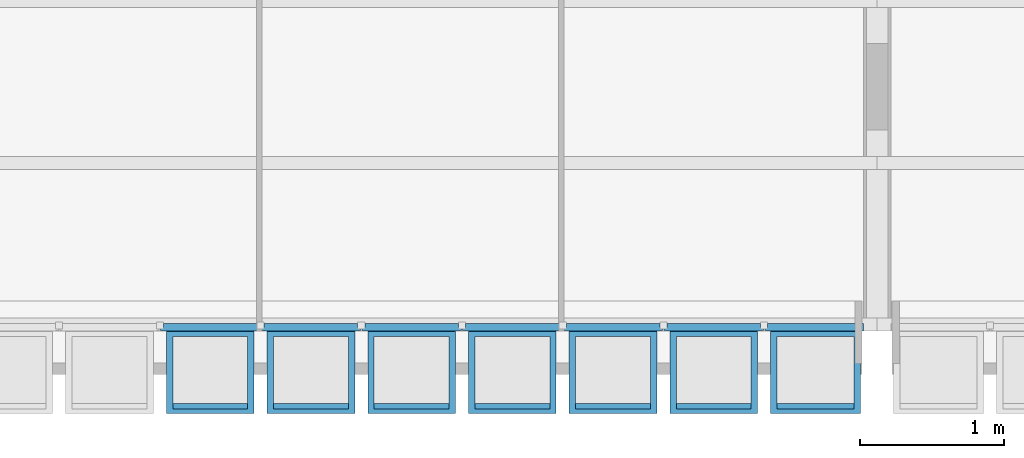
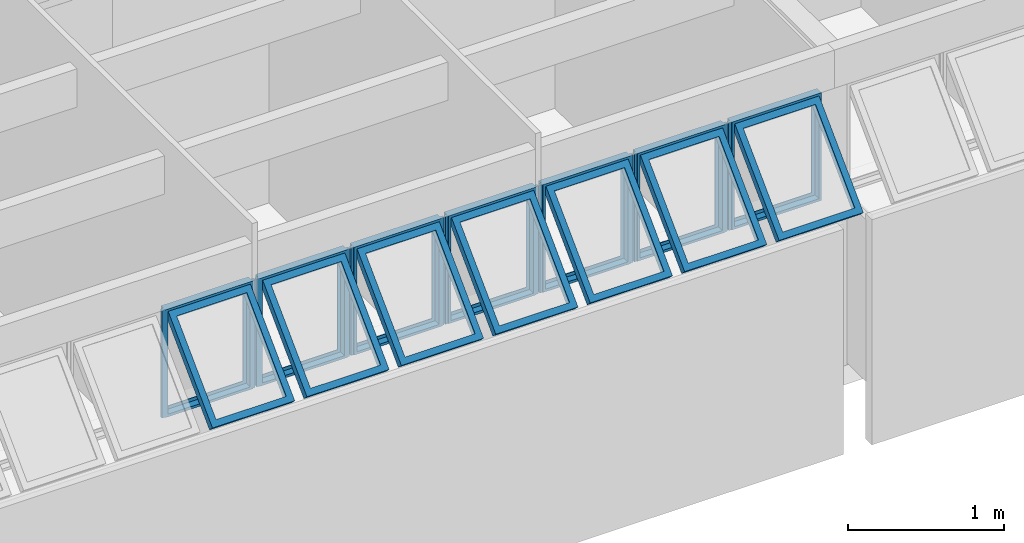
# One storey, part 27 of 38: 7 building element parts, 8 elements without a shape of their own.
"""IFC2X3 building model written with IfcOpenShell, lengths in millimetres."""

from ifc_helpers import new_model, entity, si_unit, converted_unit, derived_unit, money_unit, direction, frame, origin_with_axes, place, context, subcontext, project, spatial, faceted_brep, source, transform, mapped, material, type_object, element, aggregate, save


model = new_model("IFC2X3")

# Units and contexts
model_context = context("Model", 3, precision=0.01, world=origin_with_axes(), true_north=direction((0.0, 1.0)))
body_context = subcontext(model_context, "Body", "Model", "MODEL_VIEW")
ifc_project = project(units=[si_unit("LENGTHUNIT", "METRE", prefix="MILLI"), si_unit("AREAUNIT", "SQUARE_METRE"), si_unit("VOLUMEUNIT", "CUBIC_METRE"), converted_unit("PLANEANGLEUNIT", "DEGREE", entity("IfcPlaneAngleMeasure", 0.0174532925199), si_unit("PLANEANGLEUNIT", "RADIAN"), dimensions=[0, 0, 0, 0, 0, 0, 0]), money_unit("USD"), converted_unit("TIMEUNIT", "Year", entity("IfcTimeMeasure", 31556926.0), si_unit("TIMEUNIT", "SECOND"), dimensions=[0, 0, 1, 0, 0, 0, 0]), si_unit("MASSUNIT", "GRAM", prefix="KILO"), si_unit("THERMODYNAMICTEMPERATUREUNIT", "DEGREE_CELSIUS"), si_unit("LUMINOUSINTENSITYUNIT", "LUMEN"), si_unit("ENERGYUNIT", "JOULE", prefix="MEGA"), derived_unit("THERMALCONDUCTANCEUNIT", [(si_unit("POWERUNIT", "WATT"), 1), (si_unit("LENGTHUNIT", "METRE"), -1), (si_unit("THERMODYNAMICTEMPERATUREUNIT", "KELVIN"), -1)]), derived_unit("SPECIFICHEATCAPACITYUNIT", [(si_unit("ENERGYUNIT", "JOULE"), 1), (si_unit("MASSUNIT", "GRAM", prefix="KILO"), -1), (si_unit("THERMODYNAMICTEMPERATUREUNIT", "KELVIN"), -1)]), derived_unit("MASSDENSITYUNIT", [(si_unit("MASSUNIT", "GRAM", prefix="KILO"), 1), (si_unit("VOLUMEUNIT", "CUBIC_METRE"), -1)])], contexts=[model_context])

# Site, building, storey
site_placement = place(None, origin_with_axes())
site = spatial("IfcSite", under=ifc_project, at=site_placement, Name="Local", CompositionType="ELEMENT")
building_placement = place(site_placement, origin_with_axes())
building = spatial("IfcBuilding", under=site, at=building_placement, Name="Construção", CompositionType="ELEMENT")
storey_placement = place(building_placement, frame((0.0, 0.0, 2650.0), z_axis=(0.0, 0.0, 1.0), x_axis=(1.0, 0.0, 0.0)))
storey = spatial("IfcBuildingStorey", under=building, at=storey_placement, Name="Segundo Pavimento", CompositionType="ELEMENT", Elevation=2650.0)

# Window, plates, building element parts
window_style = type_object("IfcWindowStyle", Name="Tipo de Parede Cortina", ConstructionType="NOTDEFINED", OperationType="NOTDEFINED", ParameterTakesPrecedence=False, Sizeable=False)
window_placement = place(storey_placement, frame((6250.0, 315.020977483, 1355.02054151), z_axis=(0.0, 0.0, 1.0), x_axis=(1.0, 0.0, 0.0)))
window = element("IfcWindow", 1, at=window_placement, inside=storey, type_object=window_style, Name="APTO5-JANELA-001")
plate_type_1 = type_object("IfcPlateType", Name="Painel Principal 690 x 845 x 20", PredefinedType="CURTAIN_PANEL")
plate_1_placement = place(window_placement, frame((0.0, 0.0, 422.499945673), z_axis=(0.0, 0.0, 1.0), x_axis=(-1.0, 0.0, 0.0)))
plate_1 = element("IfcPlate", 2, at=plate_1_placement, type_object=plate_type_1, Name="APTO5-Painel-Prin-030")
ifc_material = material(Name="Alumínio")
shared_shape_1 = source(origin_with_axes(), body_context, "Body", "Brep", [
    faceted_brep([(25.0000036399, 0.0, -40.0), (674.999997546, 0.0, -40.0), (674.999997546, 0.0, -35.0), (25.0000036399, 0.0, -35.0), (70.0000036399, 45.0, -40.0), (629.999997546, 45.0, -40.0), (629.999997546, 45.0, -35.0), (70.0000036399, 45.0, -35.0)], [[[0, 1, 2, 3]], [[0, 4, 5, 1]], [[1, 5, 6, 2]], [[3, 2, 6, 7]], [[4, 0, 3, 7]], [[5, 4, 7, 6]]]),
    faceted_brep([(674.999997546, 0.0, -40.0), (674.999997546, 844.999891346, -40.0), (674.999997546, 844.999891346, -35.0), (674.999997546, 0.0, -35.0), (629.999997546, 45.0, -40.0), (629.999997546, 799.999891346, -40.0), (629.999997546, 799.999891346, -35.0), (629.999997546, 45.0, -35.0)], [[[0, 1, 2, 3]], [[0, 4, 5, 1]], [[1, 5, 6, 2]], [[3, 2, 6, 7]], [[4, 0, 3, 7]], [[5, 4, 7, 6]]]),
    faceted_brep([(25.0000036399, 844.999891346, -40.0), (70.0000036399, 799.999891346, -40.0), (70.0000036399, 799.999891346, -35.0), (25.0000036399, 844.999891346, -35.0), (674.999997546, 844.999891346, -40.0), (629.999997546, 799.999891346, -40.0), (629.999997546, 799.999891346, -35.0), (674.999997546, 844.999891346, -35.0)], [[[0, 1, 2, 3]], [[0, 4, 5, 1]], [[1, 5, 6, 2]], [[3, 2, 6, 7]], [[4, 0, 3, 7]], [[5, 4, 7, 6]]]),
    faceted_brep([(25.0000036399, 0.0, -40.0), (70.0000036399, 45.0, -40.0), (70.0000036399, 45.0, -35.0), (25.0000036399, 0.0, -35.0), (25.0000036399, 844.999891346, -40.0), (70.0000036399, 799.999891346, -40.0), (70.0000036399, 799.999891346, -35.0), (25.0000036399, 844.999891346, -35.0)], [[[0, 1, 2, 3]], [[0, 4, 5, 1]], [[1, 5, 6, 2]], [[3, 2, 6, 7]], [[4, 0, 3, 7]], [[5, 4, 7, 6]]]),
    faceted_brep([(25.0000036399, 0.0, -35.0), (674.999997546, 0.0, -35.0), (674.999997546, 0.0, 15.0), (25.0000036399, 0.0, 15.0), (45.0000036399, 20.0, -35.0), (654.999997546, 20.0, -35.0), (654.999997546, 20.0, 15.0), (45.0000036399, 20.0, 15.0)], [[[0, 1, 2, 3]], [[0, 4, 5, 1]], [[1, 5, 6, 2]], [[3, 2, 6, 7]], [[4, 0, 3, 7]], [[5, 4, 7, 6]]]),
    faceted_brep([(674.999997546, 0.0, -35.0), (674.999997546, 844.999891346, -35.0), (674.999997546, 844.999891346, 15.0), (674.999997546, 0.0, 15.0), (654.999997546, 20.0, -35.0), (654.999997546, 824.999891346, -35.0), (654.999997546, 824.999891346, 15.0), (654.999997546, 20.0, 15.0)], [[[0, 1, 2, 3]], [[0, 4, 5, 1]], [[1, 5, 6, 2]], [[3, 2, 6, 7]], [[4, 0, 3, 7]], [[5, 4, 7, 6]]]),
    faceted_brep([(25.0000036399, 844.999891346, -35.0), (45.0000036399, 824.999891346, -35.0), (45.0000036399, 824.999891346, 15.0), (25.0000036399, 844.999891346, 15.0), (674.999997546, 844.999891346, -35.0), (654.999997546, 824.999891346, -35.0), (654.999997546, 824.999891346, 15.0), (674.999997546, 844.999891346, 15.0)], [[[0, 1, 2, 3]], [[0, 4, 5, 1]], [[1, 5, 6, 2]], [[3, 2, 6, 7]], [[4, 0, 3, 7]], [[5, 4, 7, 6]]]),
    faceted_brep([(25.0000036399, 0.0, -35.0), (45.0000036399, 20.0, -35.0), (45.0000036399, 20.0, 15.0), (25.0000036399, 0.0, 15.0), (25.0000036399, 844.999891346, -35.0), (45.0000036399, 824.999891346, -35.0), (45.0000036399, 824.999891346, 15.0), (25.0000036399, 844.999891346, 15.0)], [[[0, 1, 2, 3]], [[0, 4, 5, 1]], [[1, 5, 6, 2]], [[3, 2, 6, 7]], [[4, 0, 3, 7]], [[5, 4, 7, 6]]]),
    faceted_brep([(694.999995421, 0.0, -10.0), (694.999995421, 844.999891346, -10.0), (694.999995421, 844.999891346, 10.0), (694.999995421, 0.0, 10.0), (674.999997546, 0.0, -10.0), (674.999997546, 844.999891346, -10.0), (674.999997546, 844.999891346, 10.0), (674.999997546, 0.0, 10.0)], [[[0, 1, 2, 3]], [[0, 4, 5, 1]], [[1, 5, 6, 2]], [[3, 2, 6, 7]], [[4, 0, 3, 7]], [[5, 4, 7, 6]]]),
    faceted_brep([(5.00000576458, 844.999891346, -10.0), (5.00000576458, 0.0, -10.0), (5.00000576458, 0.0, 10.0), (5.00000576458, 844.999891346, 10.0), (25.0000036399, 844.999891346, -10.0), (25.0000036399, 0.0, -10.0), (25.0000036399, 0.0, 10.0), (25.0000036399, 844.999891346, 10.0)], [[[0, 1, 2, 3]], [[0, 4, 5, 1]], [[1, 5, 6, 2]], [[3, 2, 6, 7]], [[4, 0, 3, 7]], [[5, 4, 7, 6]]]),
    faceted_brep([(90.0000036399, 252.243475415, 517.045737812), (90.0000036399, 757.824747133, 11.4644660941), (90.0000036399, 796.715620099, 50.3553390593), (90.0000036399, 291.13434838, 555.936610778), (45.0000036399, 220.423670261, 548.865542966), (45.0000036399, 789.644552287, -20.3553390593), (45.0000036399, 828.535425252, 18.5355339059), (45.0000036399, 259.314543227, 587.756415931)], [[[0, 1, 2, 3]], [[0, 4, 5, 1]], [[1, 5, 6, 2]], [[3, 2, 6, 7]], [[4, 0, 3, 7]], [[5, 4, 7, 6]]]),
    faceted_brep([(654.999997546, 220.423670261, 548.865542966), (654.999997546, 789.644552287, -20.3553390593), (654.999997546, 828.535425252, 18.5355339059), (654.999997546, 259.314543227, 587.756415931), (609.999997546, 252.243475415, 517.045737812), (609.999997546, 757.824747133, 11.4644660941), (609.999997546, 796.715620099, 50.3553390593), (609.999997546, 291.13434838, 555.936610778)], [[[0, 1, 2, 3]], [[0, 4, 5, 1]], [[1, 5, 6, 2]], [[3, 2, 6, 7]], [[4, 0, 3, 7]], [[5, 4, 7, 6]]]),
    faceted_brep([(654.999997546, 220.423670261, 548.865542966), (609.999997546, 252.243475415, 517.045737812), (609.999997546, 291.13434838, 555.936610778), (654.999997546, 259.314543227, 587.756415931), (45.0000036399, 220.423670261, 548.865542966), (90.0000036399, 252.243475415, 517.045737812), (90.0000036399, 291.13434838, 555.936610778), (45.0000036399, 259.314543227, 587.756415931)], [[[0, 1, 2, 3]], [[0, 4, 5, 1]], [[1, 5, 6, 2]], [[3, 2, 6, 7]], [[4, 0, 3, 7]], [[5, 4, 7, 6]]]),
    faceted_brep([(45.0000036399, 789.644552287, -20.3553390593), (90.0000036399, 757.824747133, 11.4644660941), (90.0000036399, 796.715620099, 50.3553390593), (45.0000036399, 828.535425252, 18.5355339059), (654.999997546, 789.644552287, -20.3553390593), (609.999997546, 757.824747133, 11.4644660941), (609.999997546, 796.715620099, 50.3553390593), (654.999997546, 828.535425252, 18.5355339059)], [[[0, 1, 2, 3]], [[0, 4, 5, 1]], [[1, 5, 6, 2]], [[3, 2, 6, 7]], [[4, 0, 3, 7]], [[5, 4, 7, 6]]]),
])
building_element_part_1_placement = place(plate_1_placement, origin_with_axes())
building_element_part_1 = element("IfcBuildingElementPart", 3, at=building_element_part_1_placement, material=ifc_material, Name="Alumínio", context=body_context, shape_type="MappedRepresentation", body=[
    mapped(shared_shape_1, transform((350.0, 0.0, -422.499945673), x_axis=(-1.0, 0.0, 0.0), y_axis=(0.0, 0.0, 1.0), z_axis=(0.0, 1.0, 0.0))),
])
aggregate(plate_1, [building_element_part_1])
plate_2_placement = place(window_placement, frame((-700.0, 0.0, 422.499945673), z_axis=(0.0, 0.0, 1.0), x_axis=(-1.0, 0.0, 0.0)))
plate_2 = element("IfcPlate", 4, at=plate_2_placement, type_object=plate_type_1, Name="APTO5-Painel-Prin-020")
building_element_part_2_placement = place(plate_2_placement, origin_with_axes())
building_element_part_2 = element("IfcBuildingElementPart", 5, at=building_element_part_2_placement, material=ifc_material, Name="Alumínio", context=body_context, shape_type="MappedRepresentation", body=[
    mapped(shared_shape_1, transform((350.0, 0.0, -422.499945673), x_axis=(-1.0, 0.0, 0.0), y_axis=(0.0, 0.0, 1.0), z_axis=(0.0, 1.0, 0.0))),
])
aggregate(plate_2, [building_element_part_2])
plate_3_placement = place(window_placement, frame((-1400.0, 0.0, 422.499945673), z_axis=(0.0, 0.0, 1.0), x_axis=(-1.0, 0.0, 0.0)))
plate_3 = element("IfcPlate", 6, at=plate_3_placement, type_object=plate_type_1, Name="APTO5-Painel-Prin-029")
building_element_part_3_placement = place(plate_3_placement, origin_with_axes())
building_element_part_3 = element("IfcBuildingElementPart", 7, at=building_element_part_3_placement, material=ifc_material, Name="Alumínio", context=body_context, shape_type="MappedRepresentation", body=[
    mapped(shared_shape_1, transform((350.0, 0.0, -422.499945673), x_axis=(-1.0, 0.0, 0.0), y_axis=(0.0, 0.0, 1.0), z_axis=(0.0, 1.0, 0.0))),
])
aggregate(plate_3, [building_element_part_3])
plate_4_placement = place(window_placement, frame((-3500.0, 0.0, 422.499945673), z_axis=(0.0, 0.0, 1.0), x_axis=(-1.0, 0.0, 0.0)))
plate_4 = element("IfcPlate", 8, at=plate_4_placement, type_object=plate_type_1, Name="APTO5-Painel-Prin-013")
building_element_part_4_placement = place(plate_4_placement, origin_with_axes())
building_element_part_4 = element("IfcBuildingElementPart", 9, at=building_element_part_4_placement, material=ifc_material, Name="Alumínio", context=body_context, shape_type="MappedRepresentation", body=[
    mapped(shared_shape_1, transform((350.0, 0.0, -422.499945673), x_axis=(-1.0, 0.0, 0.0), y_axis=(0.0, 0.0, 1.0), z_axis=(0.0, 1.0, 0.0))),
])
aggregate(plate_4, [building_element_part_4])
plate_type_2 = type_object("IfcPlateType", Name="Painel Principal 685 x 845 x 20", PredefinedType="CURTAIN_PANEL")
plate_5_placement = place(window_placement, frame((695.000037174, 0.0, 422.499953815), z_axis=(0.0, 0.0, 1.0), x_axis=(-1.0, 0.0, 0.0)))
plate_5 = element("IfcPlate", 10, at=plate_5_placement, type_object=plate_type_2, Name="APTO5-Painel-Prin-031")
shared_shape_2 = source(origin_with_axes(), body_context, "Body", "Brep", [
    faceted_brep([(25.0000046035, 0.0, -40.0), (690.000079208, 0.0, -40.0), (690.000079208, 0.0, -35.0), (25.0000046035, 0.0, -35.0), (70.0000046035, 45.0, -40.0), (645.000079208, 45.0, -40.0), (645.000079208, 45.0, -35.0), (70.0000046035, 45.0, -35.0)], [[[0, 1, 2, 3]], [[0, 4, 5, 1]], [[1, 5, 6, 2]], [[3, 2, 6, 7]], [[4, 0, 3, 7]], [[5, 4, 7, 6]]]),
    faceted_brep([(690.000079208, 0.0, -40.0), (690.000079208, 844.999923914, -40.0), (690.000079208, 844.999923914, -35.0), (690.000079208, 0.0, -35.0), (645.000079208, 45.0, -40.0), (645.000079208, 799.999923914, -40.0), (645.000079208, 799.999923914, -35.0), (645.000079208, 45.0, -35.0)], [[[0, 1, 2, 3]], [[0, 4, 5, 1]], [[1, 5, 6, 2]], [[3, 2, 6, 7]], [[4, 0, 3, 7]], [[5, 4, 7, 6]]]),
    faceted_brep([(25.0000046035, 844.999923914, -40.0), (70.0000046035, 799.999923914, -40.0), (70.0000046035, 799.999923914, -35.0), (25.0000046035, 844.999923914, -35.0), (690.000079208, 844.999923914, -40.0), (645.000079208, 799.999923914, -40.0), (645.000079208, 799.999923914, -35.0), (690.000079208, 844.999923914, -35.0)], [[[0, 1, 2, 3]], [[0, 4, 5, 1]], [[1, 5, 6, 2]], [[3, 2, 6, 7]], [[4, 0, 3, 7]], [[5, 4, 7, 6]]]),
    faceted_brep([(25.0000046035, 0.0, -40.0), (70.0000046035, 45.0, -40.0), (70.0000046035, 45.0, -35.0), (25.0000046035, 0.0, -35.0), (25.0000046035, 844.999923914, -40.0), (70.0000046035, 799.999923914, -40.0), (70.0000046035, 799.999923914, -35.0), (25.0000046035, 844.999923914, -35.0)], [[[0, 1, 2, 3]], [[0, 4, 5, 1]], [[1, 5, 6, 2]], [[3, 2, 6, 7]], [[4, 0, 3, 7]], [[5, 4, 7, 6]]]),
    faceted_brep([(25.0000046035, 0.0, -35.0), (690.000079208, 0.0, -35.0), (690.000079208, 0.0, 15.0), (25.0000046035, 0.0, 15.0), (45.0000046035, 20.0, -35.0), (670.000079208, 20.0, -35.0), (670.000079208, 20.0, 15.0), (45.0000046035, 20.0, 15.0)], [[[0, 1, 2, 3]], [[0, 4, 5, 1]], [[1, 5, 6, 2]], [[3, 2, 6, 7]], [[4, 0, 3, 7]], [[5, 4, 7, 6]]]),
    faceted_brep([(690.000079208, 0.0, -35.0), (690.000079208, 844.999923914, -35.0), (690.000079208, 844.999923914, 15.0), (690.000079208, 0.0, 15.0), (670.000079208, 20.0, -35.0), (670.000079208, 824.999923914, -35.0), (670.000079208, 824.999923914, 15.0), (670.000079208, 20.0, 15.0)], [[[0, 1, 2, 3]], [[0, 4, 5, 1]], [[1, 5, 6, 2]], [[3, 2, 6, 7]], [[4, 0, 3, 7]], [[5, 4, 7, 6]]]),
    faceted_brep([(25.0000046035, 844.999923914, -35.0), (45.0000046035, 824.999923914, -35.0), (45.0000046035, 824.999923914, 15.0), (25.0000046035, 844.999923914, 15.0), (690.000079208, 844.999923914, -35.0), (670.000079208, 824.999923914, -35.0), (670.000079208, 824.999923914, 15.0), (690.000079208, 844.999923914, 15.0)], [[[0, 1, 2, 3]], [[0, 4, 5, 1]], [[1, 5, 6, 2]], [[3, 2, 6, 7]], [[4, 0, 3, 7]], [[5, 4, 7, 6]]]),
    faceted_brep([(25.0000046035, 0.0, -35.0), (45.0000046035, 20.0, -35.0), (45.0000046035, 20.0, 15.0), (25.0000046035, 0.0, 15.0), (25.0000046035, 844.999923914, -35.0), (45.0000046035, 824.999923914, -35.0), (45.0000046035, 824.999923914, 15.0), (25.0000046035, 844.999923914, 15.0)], [[[0, 1, 2, 3]], [[0, 4, 5, 1]], [[1, 5, 6, 2]], [[3, 2, 6, 7]], [[4, 0, 3, 7]], [[5, 4, 7, 6]]]),
    faceted_brep([(5.00000595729, 844.999923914, -10.0), (5.00000595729, 0.0, -10.0), (5.00000595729, 0.0, 10.0), (5.00000595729, 844.999923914, 10.0), (25.0000046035, 844.999923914, -10.0), (25.0000046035, 0.0, -10.0), (25.0000046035, 0.0, 10.0), (25.0000046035, 844.999923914, 10.0)], [[[0, 1, 2, 3]], [[0, 4, 5, 1]], [[1, 5, 6, 2]], [[3, 2, 6, 7]], [[4, 0, 3, 7]], [[5, 4, 7, 6]]]),
    faceted_brep([(90.0000046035, 252.243484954, 517.045760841), (90.0000046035, 757.824779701, 11.4644660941), (90.0000046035, 796.715652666, 50.3553390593), (90.0000046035, 291.134357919, 555.936633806), (45.0000046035, 220.4236798, 548.865565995), (45.0000046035, 789.644584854, -20.3553390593), (45.0000046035, 828.535457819, 18.5355339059), (45.0000046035, 259.314552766, 587.75643896)], [[[0, 1, 2, 3]], [[0, 4, 5, 1]], [[1, 5, 6, 2]], [[3, 2, 6, 7]], [[4, 0, 3, 7]], [[5, 4, 7, 6]]]),
    faceted_brep([(670.000079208, 220.4236798, 548.865565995), (670.000079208, 789.644584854, -20.3553390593), (670.000079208, 828.535457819, 18.5355339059), (670.000079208, 259.314552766, 587.75643896), (625.000079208, 252.243484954, 517.045760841), (625.000079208, 757.824779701, 11.4644660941), (625.000079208, 796.715652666, 50.3553390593), (625.000079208, 291.134357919, 555.936633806)], [[[0, 1, 2, 3]], [[0, 4, 5, 1]], [[1, 5, 6, 2]], [[3, 2, 6, 7]], [[4, 0, 3, 7]], [[5, 4, 7, 6]]]),
    faceted_brep([(670.000079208, 220.4236798, 548.865565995), (625.000079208, 252.243484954, 517.045760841), (625.000079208, 291.134357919, 555.936633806), (670.000079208, 259.314552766, 587.75643896), (45.0000046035, 220.4236798, 548.865565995), (90.0000046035, 252.243484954, 517.045760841), (90.0000046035, 291.134357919, 555.936633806), (45.0000046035, 259.314552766, 587.75643896)], [[[0, 1, 2, 3]], [[0, 4, 5, 1]], [[1, 5, 6, 2]], [[3, 2, 6, 7]], [[4, 0, 3, 7]], [[5, 4, 7, 6]]]),
    faceted_brep([(45.0000046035, 789.644584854, -20.3553390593), (90.0000046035, 757.824779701, 11.4644660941), (90.0000046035, 796.715652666, 50.3553390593), (45.0000046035, 828.535457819, 18.5355339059), (670.000079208, 789.644584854, -20.3553390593), (625.000079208, 757.824779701, 11.4644660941), (625.000079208, 796.715652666, 50.3553390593), (670.000079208, 828.535457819, 18.5355339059)], [[[0, 1, 2, 3]], [[0, 4, 5, 1]], [[1, 5, 6, 2]], [[3, 2, 6, 7]], [[4, 0, 3, 7]], [[5, 4, 7, 6]]]),
])
building_element_part_5_placement = place(plate_5_placement, origin_with_axes())
building_element_part_5 = element("IfcBuildingElementPart", 11, at=building_element_part_5_placement, material=ifc_material, Name="Alumínio", context=body_context, shape_type="MappedRepresentation", body=[
    mapped(shared_shape_2, transform((345.000037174, 0.0, -422.499953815), x_axis=(-1.0, 0.0, 0.0), y_axis=(0.0, 0.0, 1.0), z_axis=(0.0, 1.0, 0.0))),
])
aggregate(plate_5, [building_element_part_5])
plate_6_placement = place(window_placement, frame((-2100.0, 0.0, 422.499945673), z_axis=(0.0, 0.0, 1.0), x_axis=(-1.0, 0.0, 0.0)))
plate_6 = element("IfcPlate", 12, at=plate_6_placement, type_object=plate_type_1, Name="APTO5-Painel-Prin-025")
shared_shape_3 = source(origin_with_axes(), body_context, "Body", "Brep", [
    faceted_brep([(25.0000036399, 0.0, -40.0), (674.999997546, 0.0, -40.0), (674.999997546, 0.0, -35.0), (25.0000036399, 0.0, -35.0), (70.0000036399, 45.0, -40.0), (629.999997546, 45.0, -40.0), (629.999997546, 45.0, -35.0), (70.0000036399, 45.0, -35.0)], [[[0, 1, 2, 3]], [[0, 4, 5, 1]], [[1, 5, 6, 2]], [[3, 2, 6, 7]], [[4, 0, 3, 7]], [[5, 4, 7, 6]]]),
    faceted_brep([(674.999997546, 0.0, -40.0), (674.999997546, 844.999891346, -40.0), (674.999997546, 844.999891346, -35.0), (674.999997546, 0.0, -35.0), (629.999997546, 45.0, -40.0), (629.999997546, 799.999891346, -40.0), (629.999997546, 799.999891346, -35.0), (629.999997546, 45.0, -35.0)], [[[0, 1, 2, 3]], [[0, 4, 5, 1]], [[1, 5, 6, 2]], [[3, 2, 6, 7]], [[4, 0, 3, 7]], [[5, 4, 7, 6]]]),
    faceted_brep([(25.0000036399, 844.999891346, -40.0), (70.0000036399, 799.999891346, -40.0), (70.0000036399, 799.999891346, -35.0), (25.0000036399, 844.999891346, -35.0), (674.999997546, 844.999891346, -40.0), (629.999997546, 799.999891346, -40.0), (629.999997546, 799.999891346, -35.0), (674.999997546, 844.999891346, -35.0)], [[[0, 1, 2, 3]], [[0, 4, 5, 1]], [[1, 5, 6, 2]], [[3, 2, 6, 7]], [[4, 0, 3, 7]], [[5, 4, 7, 6]]]),
    faceted_brep([(25.0000036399, 0.0, -40.0), (70.0000036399, 45.0, -40.0), (70.0000036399, 45.0, -35.0), (25.0000036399, 0.0, -35.0), (25.0000036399, 844.999891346, -40.0), (70.0000036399, 799.999891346, -40.0), (70.0000036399, 799.999891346, -35.0), (25.0000036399, 844.999891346, -35.0)], [[[0, 1, 2, 3]], [[0, 4, 5, 1]], [[1, 5, 6, 2]], [[3, 2, 6, 7]], [[4, 0, 3, 7]], [[5, 4, 7, 6]]]),
    faceted_brep([(25.0000036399, 0.0, -35.0), (674.999997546, 0.0, -35.0), (674.999997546, 0.0, 15.0), (25.0000036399, 0.0, 15.0), (45.0000036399, 20.0, -35.0), (654.999997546, 20.0, -35.0), (654.999997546, 20.0, 15.0), (45.0000036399, 20.0, 15.0)], [[[0, 1, 2, 3]], [[0, 4, 5, 1]], [[1, 5, 6, 2]], [[3, 2, 6, 7]], [[4, 0, 3, 7]], [[5, 4, 7, 6]]]),
    faceted_brep([(674.999997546, 0.0, -35.0), (674.999997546, 844.999891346, -35.0), (674.999997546, 844.999891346, 15.0), (674.999997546, 0.0, 15.0), (654.999997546, 20.0, -35.0), (654.999997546, 824.999891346, -35.0), (654.999997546, 824.999891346, 15.0), (654.999997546, 20.0, 15.0)], [[[0, 1, 2, 3]], [[0, 4, 5, 1]], [[1, 5, 6, 2]], [[3, 2, 6, 7]], [[4, 0, 3, 7]], [[5, 4, 7, 6]]]),
    faceted_brep([(25.0000036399, 844.999891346, -35.0), (45.0000036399, 824.999891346, -35.0), (45.0000036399, 824.999891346, 15.0), (25.0000036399, 844.999891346, 15.0), (674.999997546, 844.999891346, -35.0), (654.999997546, 824.999891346, -35.0), (654.999997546, 824.999891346, 15.0), (674.999997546, 844.999891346, 15.0)], [[[0, 1, 2, 3]], [[0, 4, 5, 1]], [[1, 5, 6, 2]], [[3, 2, 6, 7]], [[4, 0, 3, 7]], [[5, 4, 7, 6]]]),
    faceted_brep([(25.0000036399, 0.0, -35.0), (45.0000036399, 20.0, -35.0), (45.0000036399, 20.0, 15.0), (25.0000036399, 0.0, 15.0), (25.0000036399, 844.999891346, -35.0), (45.0000036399, 824.999891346, -35.0), (45.0000036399, 824.999891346, 15.0), (25.0000036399, 844.999891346, 15.0)], [[[0, 1, 2, 3]], [[0, 4, 5, 1]], [[1, 5, 6, 2]], [[3, 2, 6, 7]], [[4, 0, 3, 7]], [[5, 4, 7, 6]]]),
    faceted_brep([(694.999995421, 0.0, -10.0), (694.999995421, 844.999891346, -10.0), (694.999995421, 844.999891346, 10.0), (694.999995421, 0.0, 10.0), (674.999997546, 0.0, -10.0), (674.999997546, 844.999891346, -10.0), (674.999997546, 844.999891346, 10.0), (674.999997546, 0.0, 10.0)], [[[0, 1, 2, 3]], [[0, 4, 5, 1]], [[1, 5, 6, 2]], [[3, 2, 6, 7]], [[4, 0, 3, 7]], [[5, 4, 7, 6]]]),
    faceted_brep([(5.00000576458, 844.999891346, -10.0), (5.00000576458, 0.0, -10.0), (5.00000576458, 0.0, 10.0), (5.00000576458, 844.999891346, 10.0), (25.0000036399, 844.999891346, -10.0), (25.0000036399, 0.0, -10.0), (25.0000036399, 0.0, 10.0), (25.0000036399, 844.999891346, 10.0)], [[[0, 1, 2, 3]], [[0, 4, 5, 1]], [[1, 5, 6, 2]], [[3, 2, 6, 7]], [[4, 0, 3, 7]], [[5, 4, 7, 6]]]),
    faceted_brep([(90.0000036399, 252.243475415, 517.045737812), (90.0000036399, 757.824747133, 11.4644660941), (90.0000036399, 796.715620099, 50.3553390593), (90.0000036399, 291.13434838, 555.936610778), (45.0000036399, 220.423670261, 548.865542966), (45.0000036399, 789.644552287, -20.3553390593), (45.0000036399, 828.535425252, 18.5355339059), (45.0000036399, 259.314543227, 587.756415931)], [[[0, 1, 2, 3]], [[0, 4, 5, 1]], [[1, 5, 6, 2]], [[3, 2, 6, 7]], [[4, 0, 3, 7]], [[5, 4, 7, 6]]]),
    faceted_brep([(654.999997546, 220.423670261, 548.865542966), (654.999997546, 789.644552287, -20.3553390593), (654.999997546, 828.535425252, 18.5355339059), (654.999997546, 259.314543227, 587.756415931), (609.999997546, 252.243475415, 517.045737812), (609.999997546, 757.824747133, 11.4644660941), (609.999997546, 796.715620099, 50.3553390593), (609.999997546, 291.13434838, 555.936610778)], [[[0, 1, 2, 3]], [[0, 4, 5, 1]], [[1, 5, 6, 2]], [[3, 2, 6, 7]], [[4, 0, 3, 7]], [[5, 4, 7, 6]]]),
    faceted_brep([(654.999997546, 220.423670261, 548.865542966), (609.999997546, 252.243475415, 517.045737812), (609.999997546, 291.13434838, 555.936610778), (654.999997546, 259.314543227, 587.756415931), (45.0000036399, 220.423670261, 548.865542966), (90.0000036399, 252.243475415, 517.045737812), (90.0000036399, 291.13434838, 555.936610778), (45.0000036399, 259.314543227, 587.756415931)], [[[0, 1, 2, 3]], [[0, 4, 5, 1]], [[1, 5, 6, 2]], [[3, 2, 6, 7]], [[4, 0, 3, 7]], [[5, 4, 7, 6]]]),
    faceted_brep([(45.0000036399, 789.644552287, -20.3553390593), (90.0000036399, 757.824747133, 11.4644660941), (90.0000036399, 796.715620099, 50.3553390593), (45.0000036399, 828.535425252, 18.5355339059), (654.999997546, 789.644552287, -20.3553390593), (609.999997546, 757.824747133, 11.4644660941), (609.999997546, 796.715620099, 50.3553390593), (654.999997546, 828.535425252, 18.5355339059)], [[[0, 1, 2, 3]], [[0, 4, 5, 1]], [[1, 5, 6, 2]], [[3, 2, 6, 7]], [[4, 0, 3, 7]], [[5, 4, 7, 6]]]),
])
building_element_part_6_placement = place(plate_6_placement, origin_with_axes())
building_element_part_6 = element("IfcBuildingElementPart", 13, at=building_element_part_6_placement, material=ifc_material, Name="Alumínio", context=body_context, shape_type="MappedRepresentation", body=[
    mapped(shared_shape_3, transform((350.0, 0.0, -422.499945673), x_axis=(-1.0, 0.0, 0.0), y_axis=(0.0, 0.0, 1.0), z_axis=(0.0, 1.0, 0.0))),
])
aggregate(plate_6, [building_element_part_6])
plate_7_placement = place(window_placement, frame((-2800.0, 0.0, 422.499945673), z_axis=(0.0, 0.0, 1.0), x_axis=(-1.0, 0.0, 0.0)))
plate_7 = element("IfcPlate", 14, at=plate_7_placement, type_object=plate_type_1, Name="APTO5-Painel-Prin-013")
aggregate(window, [plate_1, plate_5, plate_7, plate_6, plate_2, plate_3, plate_4])
shared_shape_4 = source(origin_with_axes(), body_context, "Body", "Brep", [
    faceted_brep([(25.0000036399, 0.0, -40.0), (674.999997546, 0.0, -40.0), (674.999997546, 0.0, -35.0), (25.0000036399, 0.0, -35.0), (70.0000036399, 45.0, -40.0), (629.999997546, 45.0, -40.0), (629.999997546, 45.0, -35.0), (70.0000036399, 45.0, -35.0)], [[[0, 1, 2, 3]], [[0, 4, 5, 1]], [[1, 5, 6, 2]], [[3, 2, 6, 7]], [[4, 0, 3, 7]], [[5, 4, 7, 6]]]),
    faceted_brep([(674.999997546, 0.0, -40.0), (674.999997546, 844.999891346, -40.0), (674.999997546, 844.999891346, -35.0), (674.999997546, 0.0, -35.0), (629.999997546, 45.0, -40.0), (629.999997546, 799.999891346, -40.0), (629.999997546, 799.999891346, -35.0), (629.999997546, 45.0, -35.0)], [[[0, 1, 2, 3]], [[0, 4, 5, 1]], [[1, 5, 6, 2]], [[3, 2, 6, 7]], [[4, 0, 3, 7]], [[5, 4, 7, 6]]]),
    faceted_brep([(25.0000036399, 844.999891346, -40.0), (70.0000036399, 799.999891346, -40.0), (70.0000036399, 799.999891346, -35.0), (25.0000036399, 844.999891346, -35.0), (674.999997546, 844.999891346, -40.0), (629.999997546, 799.999891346, -40.0), (629.999997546, 799.999891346, -35.0), (674.999997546, 844.999891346, -35.0)], [[[0, 1, 2, 3]], [[0, 4, 5, 1]], [[1, 5, 6, 2]], [[3, 2, 6, 7]], [[4, 0, 3, 7]], [[5, 4, 7, 6]]]),
    faceted_brep([(25.0000036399, 0.0, -40.0), (70.0000036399, 45.0, -40.0), (70.0000036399, 45.0, -35.0), (25.0000036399, 0.0, -35.0), (25.0000036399, 844.999891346, -40.0), (70.0000036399, 799.999891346, -40.0), (70.0000036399, 799.999891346, -35.0), (25.0000036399, 844.999891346, -35.0)], [[[0, 1, 2, 3]], [[0, 4, 5, 1]], [[1, 5, 6, 2]], [[3, 2, 6, 7]], [[4, 0, 3, 7]], [[5, 4, 7, 6]]]),
    faceted_brep([(25.0000036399, 0.0, -35.0), (674.999997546, 0.0, -35.0), (674.999997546, 0.0, 15.0), (25.0000036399, 0.0, 15.0), (45.0000036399, 20.0, -35.0), (654.999997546, 20.0, -35.0), (654.999997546, 20.0, 15.0), (45.0000036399, 20.0, 15.0)], [[[0, 1, 2, 3]], [[0, 4, 5, 1]], [[1, 5, 6, 2]], [[3, 2, 6, 7]], [[4, 0, 3, 7]], [[5, 4, 7, 6]]]),
    faceted_brep([(674.999997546, 0.0, -35.0), (674.999997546, 844.999891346, -35.0), (674.999997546, 844.999891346, 15.0), (674.999997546, 0.0, 15.0), (654.999997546, 20.0, -35.0), (654.999997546, 824.999891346, -35.0), (654.999997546, 824.999891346, 15.0), (654.999997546, 20.0, 15.0)], [[[0, 1, 2, 3]], [[0, 4, 5, 1]], [[1, 5, 6, 2]], [[3, 2, 6, 7]], [[4, 0, 3, 7]], [[5, 4, 7, 6]]]),
    faceted_brep([(25.0000036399, 844.999891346, -35.0), (45.0000036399, 824.999891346, -35.0), (45.0000036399, 824.999891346, 15.0), (25.0000036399, 844.999891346, 15.0), (674.999997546, 844.999891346, -35.0), (654.999997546, 824.999891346, -35.0), (654.999997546, 824.999891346, 15.0), (674.999997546, 844.999891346, 15.0)], [[[0, 1, 2, 3]], [[0, 4, 5, 1]], [[1, 5, 6, 2]], [[3, 2, 6, 7]], [[4, 0, 3, 7]], [[5, 4, 7, 6]]]),
    faceted_brep([(25.0000036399, 0.0, -35.0), (45.0000036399, 20.0, -35.0), (45.0000036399, 20.0, 15.0), (25.0000036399, 0.0, 15.0), (25.0000036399, 844.999891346, -35.0), (45.0000036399, 824.999891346, -35.0), (45.0000036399, 824.999891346, 15.0), (25.0000036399, 844.999891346, 15.0)], [[[0, 1, 2, 3]], [[0, 4, 5, 1]], [[1, 5, 6, 2]], [[3, 2, 6, 7]], [[4, 0, 3, 7]], [[5, 4, 7, 6]]]),
    faceted_brep([(694.999995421, 0.0, -10.0), (694.999995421, 844.999891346, -10.0), (694.999995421, 844.999891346, 10.0), (694.999995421, 0.0, 10.0), (674.999997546, 0.0, -10.0), (674.999997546, 844.999891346, -10.0), (674.999997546, 844.999891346, 10.0), (674.999997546, 0.0, 10.0)], [[[0, 1, 2, 3]], [[0, 4, 5, 1]], [[1, 5, 6, 2]], [[3, 2, 6, 7]], [[4, 0, 3, 7]], [[5, 4, 7, 6]]]),
    faceted_brep([(5.00000576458, 844.999891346, -10.0), (5.00000576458, 0.0, -10.0), (5.00000576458, 0.0, 10.0), (5.00000576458, 844.999891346, 10.0), (25.0000036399, 844.999891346, -10.0), (25.0000036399, 0.0, -10.0), (25.0000036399, 0.0, 10.0), (25.0000036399, 844.999891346, 10.0)], [[[0, 1, 2, 3]], [[0, 4, 5, 1]], [[1, 5, 6, 2]], [[3, 2, 6, 7]], [[4, 0, 3, 7]], [[5, 4, 7, 6]]]),
    faceted_brep([(90.0000036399, 252.243475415, 517.045737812), (90.0000036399, 757.824747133, 11.4644660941), (90.0000036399, 796.715620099, 50.3553390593), (90.0000036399, 291.13434838, 555.936610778), (45.0000036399, 220.423670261, 548.865542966), (45.0000036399, 789.644552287, -20.3553390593), (45.0000036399, 828.535425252, 18.5355339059), (45.0000036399, 259.314543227, 587.756415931)], [[[0, 1, 2, 3]], [[0, 4, 5, 1]], [[1, 5, 6, 2]], [[3, 2, 6, 7]], [[4, 0, 3, 7]], [[5, 4, 7, 6]]]),
    faceted_brep([(654.999997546, 220.423670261, 548.865542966), (654.999997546, 789.644552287, -20.3553390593), (654.999997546, 828.535425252, 18.5355339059), (654.999997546, 259.314543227, 587.756415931), (609.999997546, 252.243475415, 517.045737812), (609.999997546, 757.824747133, 11.4644660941), (609.999997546, 796.715620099, 50.3553390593), (609.999997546, 291.13434838, 555.936610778)], [[[0, 1, 2, 3]], [[0, 4, 5, 1]], [[1, 5, 6, 2]], [[3, 2, 6, 7]], [[4, 0, 3, 7]], [[5, 4, 7, 6]]]),
    faceted_brep([(654.999997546, 220.423670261, 548.865542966), (609.999997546, 252.243475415, 517.045737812), (609.999997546, 291.13434838, 555.936610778), (654.999997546, 259.314543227, 587.756415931), (45.0000036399, 220.423670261, 548.865542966), (90.0000036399, 252.243475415, 517.045737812), (90.0000036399, 291.13434838, 555.936610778), (45.0000036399, 259.314543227, 587.756415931)], [[[0, 1, 2, 3]], [[0, 4, 5, 1]], [[1, 5, 6, 2]], [[3, 2, 6, 7]], [[4, 0, 3, 7]], [[5, 4, 7, 6]]]),
    faceted_brep([(45.0000036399, 789.644552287, -20.3553390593), (90.0000036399, 757.824747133, 11.4644660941), (90.0000036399, 796.715620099, 50.3553390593), (45.0000036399, 828.535425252, 18.5355339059), (654.999997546, 789.644552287, -20.3553390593), (609.999997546, 757.824747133, 11.4644660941), (609.999997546, 796.715620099, 50.3553390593), (654.999997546, 828.535425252, 18.5355339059)], [[[0, 1, 2, 3]], [[0, 4, 5, 1]], [[1, 5, 6, 2]], [[3, 2, 6, 7]], [[4, 0, 3, 7]], [[5, 4, 7, 6]]]),
])
building_element_part_7_placement = place(plate_7_placement, origin_with_axes())
building_element_part_7 = element("IfcBuildingElementPart", 15, at=building_element_part_7_placement, material=ifc_material, Name="Alumínio", context=body_context, shape_type="MappedRepresentation", body=[
    mapped(shared_shape_4, transform((350.0, 0.0, -422.499945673), x_axis=(-1.0, 0.0, 0.0), y_axis=(0.0, 0.0, 1.0), z_axis=(0.0, 1.0, 0.0))),
])
aggregate(plate_7, [building_element_part_7])

save(model, "model.ifc")
